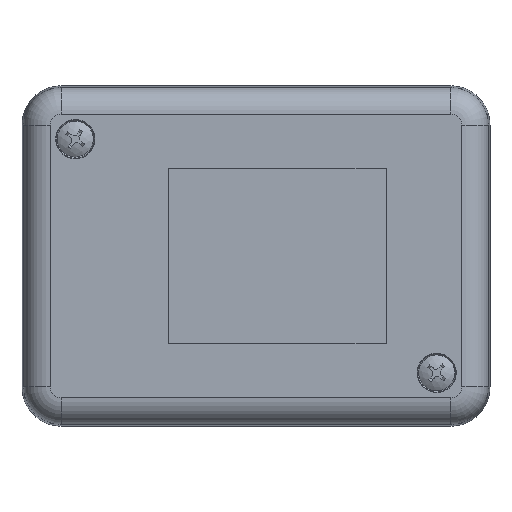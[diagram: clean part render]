
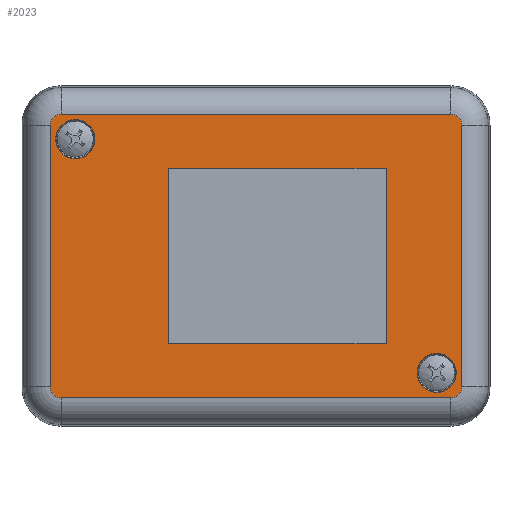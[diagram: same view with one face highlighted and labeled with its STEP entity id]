
A CAD part, front view. The second image highlights one B-rep face of the part: STEP entity #2023.
In plain terms, the highlighted planar face has unit normal (0, -1, 0).
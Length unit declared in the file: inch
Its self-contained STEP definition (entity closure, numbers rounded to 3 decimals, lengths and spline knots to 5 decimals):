
#1 = EDGE_CURVE ( 'NONE', #1107, #301, #2587, .T. ) ;
#10 = AXIS2_PLACEMENT_3D ( 'NONE', #1681, #4375, #2573 ) ;
#32 = DIRECTION ( 'NONE',  ( 0., 0., -1. ) ) ;
#73 = VERTEX_POINT ( 'NONE', #4789 ) ;
#96 = LINE ( 'NONE', #5141, #5005 ) ;
#99 = VERTEX_POINT ( 'NONE', #5692 ) ;
#219 = LINE ( 'NONE', #840, #3569 ) ;
#242 = DIRECTION ( 'NONE',  ( -1., 0., 0. ) ) ;
#273 = VERTEX_POINT ( 'NONE', #1979 ) ;
#301 = VERTEX_POINT ( 'NONE', #2359 ) ;
#341 = ORIENTED_EDGE ( 'NONE', *, *, #1, .T. ) ;
#342 = CARTESIAN_POINT ( 'NONE',  ( 1.146, -0.356, 0.77 ) ) ;
#366 = DIRECTION ( 'NONE',  ( 1., 0., 0. ) ) ;
#441 = ORIENTED_EDGE ( 'NONE', *, *, #3440, .F. ) ;
#600 = AXIS2_PLACEMENT_3D ( 'NONE', #342, #1147, #4931 ) ;
#661 = DIRECTION ( 'NONE',  ( 0., 0., 1. ) ) ;
#796 = DIRECTION ( 'NONE',  ( 0., 0., 1. ) ) ;
#840 = CARTESIAN_POINT ( 'NONE',  ( 1.146, -0.356, -0.8333 ) ) ;
#943 = LINE ( 'NONE', #4062, #4525 ) ;
#1065 = CIRCLE ( 'NONE', #10, 0.11512 ) ;
#1076 = CIRCLE ( 'NONE', #5292, 0.0633 ) ;
#1104 = ORIENTED_EDGE ( 'NONE', *, *, #1828, .F. ) ;
#1107 = VERTEX_POINT ( 'NONE', #1577 ) ;
#1147 = DIRECTION ( 'NONE',  ( 0., -1., 0. ) ) ;
#1195 = VERTEX_POINT ( 'NONE', #2183 ) ;
#1295 = EDGE_LOOP ( 'NONE', ( #1104, #5734, #441, #4046 ) ) ;
#1384 = VERTEX_POINT ( 'NONE', #4719 ) ;
#1475 = DIRECTION ( 'NONE',  ( 1., 0., 0. ) ) ;
#1493 = VERTEX_POINT ( 'NONE', #5823 ) ;
#1515 = VERTEX_POINT ( 'NONE', #5261 ) ;
#1536 = EDGE_CURVE ( 'NONE', #1515, #1107, #1940, .T. ) ;
#1558 = EDGE_LOOP ( 'NONE', ( #2569 ) ) ;
#1577 = CARTESIAN_POINT ( 'NONE',  ( 1.146, -0.356, 0.8333 ) ) ;
#1627 = VECTOR ( 'NONE', #242, 39.37008 ) ;
#1649 = CARTESIAN_POINT ( 'NONE',  ( 1.146, -0.356, 0.77 ) ) ;
#1667 = CARTESIAN_POINT ( 'NONE',  ( 1.2093, -0.356, 0.77 ) ) ;
#1681 = CARTESIAN_POINT ( 'NONE',  ( 1.0625, -0.356, -0.6875 ) ) ;
#1720 = CARTESIAN_POINT ( 'NONE',  ( -1.146, -0.356, -0.77 ) ) ;
#1786 = DIRECTION ( 'NONE',  ( -1., 0., 0. ) ) ;
#1828 = EDGE_CURVE ( 'NONE', #1493, #4844, #96, .T. ) ;
#1940 = CIRCLE ( 'NONE', #600, 0.0633 ) ;
#1955 = EDGE_CURVE ( 'NONE', #273, #273, #1065, .T. ) ;
#1973 = DIRECTION ( 'NONE',  ( 0., -1., 0. ) ) ;
#1979 = CARTESIAN_POINT ( 'NONE',  ( 0.95749, -0.356, -0.73467 ) ) ;
#1991 = LINE ( 'NONE', #2947, #2245 ) ;
#2023 = ADVANCED_FACE ( 'NONE', ( #2602, #4439, #4836, #5759 ), #3058, .F. ) ;
#2066 = LINE ( 'NONE', #1667, #2216 ) ;
#2183 = CARTESIAN_POINT ( 'NONE',  ( -1.0625, -0.356, 0.57238 ) ) ;
#2216 = VECTOR ( 'NONE', #3909, 39.37008 ) ;
#2245 = VECTOR ( 'NONE', #5769, 39.37008 ) ;
#2291 = ORIENTED_EDGE ( 'NONE', *, *, #2518, .T. ) ;
#2359 = CARTESIAN_POINT ( 'NONE',  ( -1.146, -0.356, 0.8333 ) ) ;
#2466 = DIRECTION ( 'NONE',  ( 0., 0., -1. ) ) ;
#2515 = VERTEX_POINT ( 'NONE', #4875 ) ;
#2518 = EDGE_CURVE ( 'NONE', #1384, #1515, #2066, .T. ) ;
#2530 = VERTEX_POINT ( 'NONE', #3438 ) ;
#2569 = ORIENTED_EDGE ( 'NONE', *, *, #4308, .F. ) ;
#2573 = DIRECTION ( 'NONE',  ( -0.912, 0., -0.41 ) ) ;
#2587 = LINE ( 'NONE', #3024, #1627 ) ;
#2602 = FACE_BOUND ( 'NONE', #1295, .T. ) ;
#2611 = CIRCLE ( 'NONE', #3189, 0.0633 ) ;
#2616 = CARTESIAN_POINT ( 'NONE',  ( -1.146, -0.356, -0.8333 ) ) ;
#2727 = CARTESIAN_POINT ( 'NONE',  ( -1.0625, -0.356, 0.6875 ) ) ;
#2782 = AXIS2_PLACEMENT_3D ( 'NONE', #1649, #4350, #4886 ) ;
#2821 = VECTOR ( 'NONE', #2466, 39.37008 ) ;
#2947 = CARTESIAN_POINT ( 'NONE',  ( 0.765, -0.356, -0.515 ) ) ;
#2960 = DIRECTION ( 'NONE',  ( 0., 0., -1. ) ) ;
#3011 = CARTESIAN_POINT ( 'NONE',  ( -1.2093, -0.356, -0.77 ) ) ;
#3024 = CARTESIAN_POINT ( 'NONE',  ( -1.146, -0.356, 0.8333 ) ) ;
#3058 = PLANE ( 'NONE',  #2782 ) ;
#3136 = DIRECTION ( 'NONE',  ( 0., -1., 0. ) ) ;
#3156 = EDGE_CURVE ( 'NONE', #2530, #1384, #4033, .T. ) ;
#3189 = AXIS2_PLACEMENT_3D ( 'NONE', #4800, #5283, #661 ) ;
#3195 = AXIS2_PLACEMENT_3D ( 'NONE', #2727, #4131, #32 ) ;
#3219 = CARTESIAN_POINT ( 'NONE',  ( 0.765, -0.356, -0.515 ) ) ;
#3225 = EDGE_CURVE ( 'NONE', #2515, #3721, #1076, .T. ) ;
#3289 = CIRCLE ( 'NONE', #3195, 0.11512 ) ;
#3348 = CARTESIAN_POINT ( 'NONE',  ( 1.146, -0.356, -0.77 ) ) ;
#3432 = CARTESIAN_POINT ( 'NONE',  ( 0.765, -0.356, 0.515 ) ) ;
#3438 = CARTESIAN_POINT ( 'NONE',  ( 1.146, -0.356, -0.8333 ) ) ;
#3440 = EDGE_CURVE ( 'NONE', #3466, #99, #943, .T. ) ;
#3441 = LINE ( 'NONE', #4763, #5397 ) ;
#3466 = VERTEX_POINT ( 'NONE', #3432 ) ;
#3569 = VECTOR ( 'NONE', #366, 39.37008 ) ;
#3721 = VERTEX_POINT ( 'NONE', #2616 ) ;
#3908 = ORIENTED_EDGE ( 'NONE', *, *, #5568, .T. ) ;
#3909 = DIRECTION ( 'NONE',  ( 0., 0., 1. ) ) ;
#3964 = EDGE_CURVE ( 'NONE', #99, #1493, #3441, .T. ) ;
#4033 = CIRCLE ( 'NONE', #4909, 0.0633 ) ;
#4046 = ORIENTED_EDGE ( 'NONE', *, *, #5018, .F. ) ;
#4062 = CARTESIAN_POINT ( 'NONE',  ( -0.515, -0.356, 0.515 ) ) ;
#4085 = EDGE_LOOP ( 'NONE', ( #341, #5663, #4181, #4888, #3908, #5474, #2291, #4654 ) ) ;
#4131 = DIRECTION ( 'NONE',  ( 0., -1., 0. ) ) ;
#4165 = EDGE_CURVE ( 'NONE', #301, #73, #2611, .T. ) ;
#4181 = ORIENTED_EDGE ( 'NONE', *, *, #4918, .T. ) ;
#4291 = LINE ( 'NONE', #3011, #2821 ) ;
#4308 = EDGE_CURVE ( 'NONE', #1195, #1195, #3289, .T. ) ;
#4350 = DIRECTION ( 'NONE',  ( 0., 1., 0. ) ) ;
#4375 = DIRECTION ( 'NONE',  ( 0., 1., 0. ) ) ;
#4439 = FACE_BOUND ( 'NONE', #4653, .T. ) ;
#4525 = VECTOR ( 'NONE', #1786, 39.37008 ) ;
#4653 = EDGE_LOOP ( 'NONE', ( #5593 ) ) ;
#4654 = ORIENTED_EDGE ( 'NONE', *, *, #1536, .T. ) ;
#4719 = CARTESIAN_POINT ( 'NONE',  ( 1.2093, -0.356, -0.77 ) ) ;
#4763 = CARTESIAN_POINT ( 'NONE',  ( -0.515, -0.356, -0.515 ) ) ;
#4789 = CARTESIAN_POINT ( 'NONE',  ( -1.2093, -0.356, 0.77 ) ) ;
#4800 = CARTESIAN_POINT ( 'NONE',  ( -1.146, -0.356, 0.77 ) ) ;
#4836 = FACE_BOUND ( 'NONE', #1558, .T. ) ;
#4844 = VERTEX_POINT ( 'NONE', #3219 ) ;
#4875 = CARTESIAN_POINT ( 'NONE',  ( -1.2093, -0.356, -0.77 ) ) ;
#4886 = DIRECTION ( 'NONE',  ( 0., 0., 1. ) ) ;
#4888 = ORIENTED_EDGE ( 'NONE', *, *, #3225, .T. ) ;
#4909 = AXIS2_PLACEMENT_3D ( 'NONE', #3348, #1973, #5182 ) ;
#4918 = EDGE_CURVE ( 'NONE', #73, #2515, #4291, .T. ) ;
#4931 = DIRECTION ( 'NONE',  ( 0., 0., 1. ) ) ;
#5005 = VECTOR ( 'NONE', #1475, 39.37008 ) ;
#5018 = EDGE_CURVE ( 'NONE', #4844, #3466, #1991, .T. ) ;
#5141 = CARTESIAN_POINT ( 'NONE',  ( -0.515, -0.356, -0.515 ) ) ;
#5182 = DIRECTION ( 'NONE',  ( 0., 0., 1. ) ) ;
#5261 = CARTESIAN_POINT ( 'NONE',  ( 1.2093, -0.356, 0.77 ) ) ;
#5283 = DIRECTION ( 'NONE',  ( 0., -1., 0. ) ) ;
#5292 = AXIS2_PLACEMENT_3D ( 'NONE', #1720, #3136, #796 ) ;
#5397 = VECTOR ( 'NONE', #2960, 39.37008 ) ;
#5474 = ORIENTED_EDGE ( 'NONE', *, *, #3156, .T. ) ;
#5568 = EDGE_CURVE ( 'NONE', #3721, #2530, #219, .T. ) ;
#5593 = ORIENTED_EDGE ( 'NONE', *, *, #1955, .T. ) ;
#5663 = ORIENTED_EDGE ( 'NONE', *, *, #4165, .T. ) ;
#5692 = CARTESIAN_POINT ( 'NONE',  ( -0.515, -0.356, 0.515 ) ) ;
#5734 = ORIENTED_EDGE ( 'NONE', *, *, #3964, .F. ) ;
#5759 = FACE_OUTER_BOUND ( 'NONE', #4085, .T. ) ;
#5769 = DIRECTION ( 'NONE',  ( 0., 0., 1. ) ) ;
#5823 = CARTESIAN_POINT ( 'NONE',  ( -0.515, -0.356, -0.515 ) ) ;
